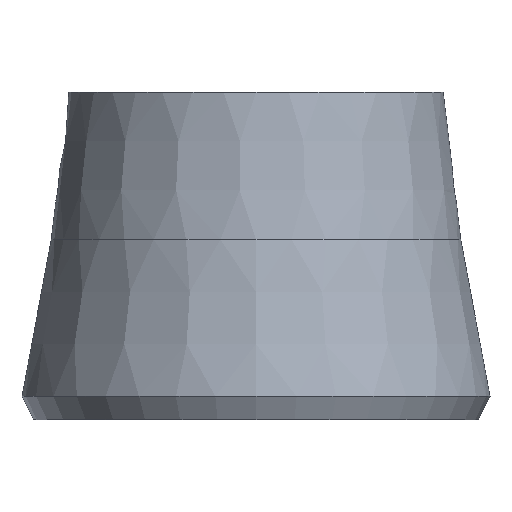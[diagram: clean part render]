
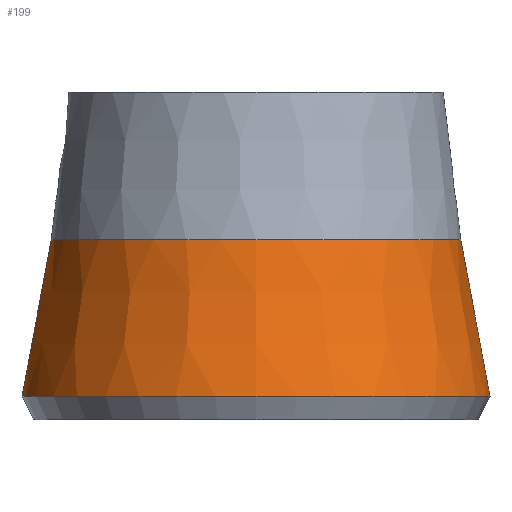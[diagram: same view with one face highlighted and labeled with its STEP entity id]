
A CAD part, front view. The second image highlights one B-rep face of the part: STEP entity #199.
In plain terms, the highlighted conical face has half-angle 10.568 degrees and reference radius 20 mm.
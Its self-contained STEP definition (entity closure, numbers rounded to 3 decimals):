
#43 = CONICAL_SURFACE('',#44,19.,0.464);
#44 = AXIS2_PLACEMENT_3D('',#45,#46,#47);
#45 = CARTESIAN_POINT('',(0.,0.,0.));
#46 = DIRECTION('',(0.,0.,1.));
#47 = DIRECTION('',(1.,0.,-0.));
#91 = VERTEX_POINT('',#92);
#92 = CARTESIAN_POINT('',(20.,0.,2.));
#113 = EDGE_CURVE('',#91,#91,#114,.T.);
#114 = SURFACE_CURVE('',#115,(#120,#127),.PCURVE_S1.);
#115 = CIRCLE('',#116,20.);
#116 = AXIS2_PLACEMENT_3D('',#117,#118,#119);
#117 = CARTESIAN_POINT('',(0.,0.,2.));
#118 = DIRECTION('',(0.,0.,1.));
#119 = DIRECTION('',(1.,0.,-0.));
#120 = PCURVE('',#43,#121);
#121 = DEFINITIONAL_REPRESENTATION('',(#122),#126);
#122 = LINE('',#123,#124);
#123 = CARTESIAN_POINT('',(0.,2.));
#124 = VECTOR('',#125,1.);
#125 = DIRECTION('',(1.,0.));
#126 = ( GEOMETRIC_REPRESENTATION_CONTEXT(2) 
PARAMETRIC_REPRESENTATION_CONTEXT() REPRESENTATION_CONTEXT('2D SPACE',''
  ) );
#127 = PCURVE('',#128,#133);
#128 = CONICAL_SURFACE('',#129,20.,0.184);
#129 = AXIS2_PLACEMENT_3D('',#130,#131,#132);
#130 = CARTESIAN_POINT('',(0.,0.,2.));
#131 = DIRECTION('',(-0.,-0.,-1.));
#132 = DIRECTION('',(1.,0.,-0.));
#133 = DEFINITIONAL_REPRESENTATION('',(#134),#138);
#134 = LINE('',#135,#136);
#135 = CARTESIAN_POINT('',(-0.,-0.));
#136 = VECTOR('',#137,1.);
#137 = DIRECTION('',(-1.,-0.));
#138 = ( GEOMETRIC_REPRESENTATION_CONTEXT(2) 
PARAMETRIC_REPRESENTATION_CONTEXT() REPRESENTATION_CONTEXT('2D SPACE',''
  ) );
#199 = ADVANCED_FACE('',(#200),#128,.T.);
#200 = FACE_BOUND('',#201,.T.);
#201 = EDGE_LOOP('',(#202,#203,#226,#253));
#202 = ORIENTED_EDGE('',*,*,#113,.T.);
#203 = ORIENTED_EDGE('',*,*,#204,.T.);
#204 = EDGE_CURVE('',#91,#205,#207,.T.);
#205 = VERTEX_POINT('',#206);
#206 = CARTESIAN_POINT('',(17.5,0.,15.4));
#207 = SEAM_CURVE('',#208,(#212,#219),.PCURVE_S1.);
#208 = LINE('',#209,#210);
#209 = CARTESIAN_POINT('',(20.,0.,2.));
#210 = VECTOR('',#211,1.);
#211 = DIRECTION('',(-0.183,0.,0.983));
#212 = PCURVE('',#128,#213);
#213 = DEFINITIONAL_REPRESENTATION('',(#214),#218);
#214 = LINE('',#215,#216);
#215 = CARTESIAN_POINT('',(-0.,-0.));
#216 = VECTOR('',#217,1.);
#217 = DIRECTION('',(-0.,-1.));
#218 = ( GEOMETRIC_REPRESENTATION_CONTEXT(2) 
PARAMETRIC_REPRESENTATION_CONTEXT() REPRESENTATION_CONTEXT('2D SPACE',''
  ) );
#219 = PCURVE('',#128,#220);
#220 = DEFINITIONAL_REPRESENTATION('',(#221),#225);
#221 = LINE('',#222,#223);
#222 = CARTESIAN_POINT('',(-6.283,-0.));
#223 = VECTOR('',#224,1.);
#224 = DIRECTION('',(-0.,-1.));
#225 = ( GEOMETRIC_REPRESENTATION_CONTEXT(2) 
PARAMETRIC_REPRESENTATION_CONTEXT() REPRESENTATION_CONTEXT('2D SPACE',''
  ) );
#226 = ORIENTED_EDGE('',*,*,#227,.F.);
#227 = EDGE_CURVE('',#205,#205,#228,.T.);
#228 = SURFACE_CURVE('',#229,(#234,#241),.PCURVE_S1.);
#229 = CIRCLE('',#230,17.5);
#230 = AXIS2_PLACEMENT_3D('',#231,#232,#233);
#231 = CARTESIAN_POINT('',(0.,0.,15.4));
#232 = DIRECTION('',(0.,0.,1.));
#233 = DIRECTION('',(1.,0.,-0.));
#234 = PCURVE('',#128,#235);
#235 = DEFINITIONAL_REPRESENTATION('',(#236),#240);
#236 = LINE('',#237,#238);
#237 = CARTESIAN_POINT('',(-0.,-13.4));
#238 = VECTOR('',#239,1.);
#239 = DIRECTION('',(-1.,-0.));
#240 = ( GEOMETRIC_REPRESENTATION_CONTEXT(2) 
PARAMETRIC_REPRESENTATION_CONTEXT() REPRESENTATION_CONTEXT('2D SPACE',''
  ) );
#241 = PCURVE('',#242,#247);
#242 = CONICAL_SURFACE('',#243,17.5,0.118);
#243 = AXIS2_PLACEMENT_3D('',#244,#245,#246);
#244 = CARTESIAN_POINT('',(0.,0.,15.4));
#245 = DIRECTION('',(-0.,-0.,-1.));
#246 = DIRECTION('',(1.,0.,-0.));
#247 = DEFINITIONAL_REPRESENTATION('',(#248),#252);
#248 = LINE('',#249,#250);
#249 = CARTESIAN_POINT('',(-0.,-0.));
#250 = VECTOR('',#251,1.);
#251 = DIRECTION('',(-1.,-0.));
#252 = ( GEOMETRIC_REPRESENTATION_CONTEXT(2) 
PARAMETRIC_REPRESENTATION_CONTEXT() REPRESENTATION_CONTEXT('2D SPACE',''
  ) );
#253 = ORIENTED_EDGE('',*,*,#204,.F.);
